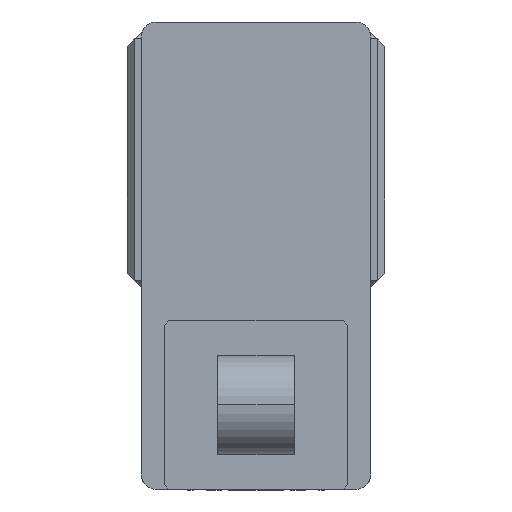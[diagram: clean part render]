
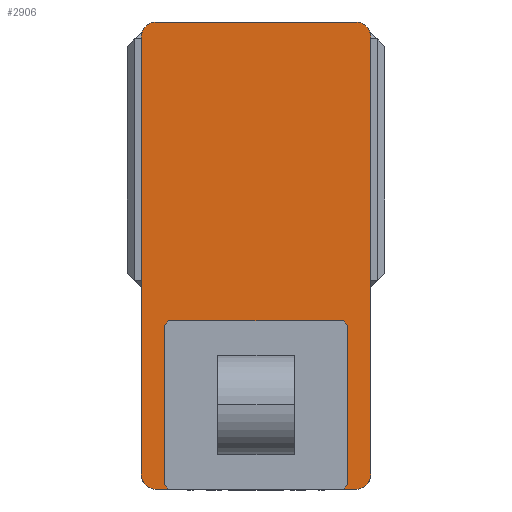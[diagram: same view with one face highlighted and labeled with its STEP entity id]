
A CAD part, left-side view. The second image highlights one B-rep face of the part: STEP entity #2906.
In plain terms, the highlighted planar face has unit normal (-1, 0, 0) as drawn and (0, 0, 1) by its records, which use the part's own axes.
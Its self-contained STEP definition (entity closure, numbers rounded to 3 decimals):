
#105 = DIRECTION ( 'NONE',  ( 1., 0., 0. ) ) ;
#231 = EDGE_CURVE ( 'NONE', #4683, #5187, #20035, .T. ) ;
#988 = ORIENTED_EDGE ( 'NONE', *, *, #1508, .T. ) ;
#1016 = AXIS2_PLACEMENT_3D ( 'NONE', #21525, #10880, #105 ) ;
#1384 = AXIS2_PLACEMENT_3D ( 'NONE', #20003, #9316, #21768 ) ;
#1508 = EDGE_CURVE ( 'NONE', #8217, #6273, #20270, .T. ) ;
#1693 = ORIENTED_EDGE ( 'NONE', *, *, #231, .T. ) ;
#2906 = ADVANCED_FACE ( 'NONE', ( #21542 ), #4420, .T. ) ;
#3140 = CIRCLE ( 'NONE', #19029, 10. ) ;
#4246 = VECTOR ( 'NONE', #7596, 1000. ) ;
#4420 = PLANE ( 'NONE',  #17857 ) ;
#4443 = VERTEX_POINT ( 'NONE', #22717 ) ;
#4476 = CARTESIAN_POINT ( 'NONE',  ( -75., -142.5, 105. ) ) ;
#4683 = VERTEX_POINT ( 'NONE', #8991 ) ;
#5187 = VERTEX_POINT ( 'NONE', #6788 ) ;
#5766 = VECTOR ( 'NONE', #11138, 1000. ) ;
#5987 = CARTESIAN_POINT ( 'NONE',  ( -65., 142.5, 105. ) ) ;
#6115 = ORIENTED_EDGE ( 'NONE', *, *, #18826, .T. ) ;
#6228 = DIRECTION ( 'NONE',  ( 0., 0., 1. ) ) ;
#6273 = VERTEX_POINT ( 'NONE', #21964 ) ;
#6332 = ORIENTED_EDGE ( 'NONE', *, *, #13163, .T. ) ;
#6408 = VERTEX_POINT ( 'NONE', #4476 ) ;
#6788 = CARTESIAN_POINT ( 'NONE',  ( 75., 142.5, 105. ) ) ;
#6977 = CARTESIAN_POINT ( 'NONE',  ( 65., 152.5, 105. ) ) ;
#7596 = DIRECTION ( 'NONE',  ( 0., -1., 0. ) ) ;
#7790 = DIRECTION ( 'NONE',  ( 1., 0., 0. ) ) ;
#7951 = DIRECTION ( 'NONE',  ( 0., 0., 1. ) ) ;
#8217 = VERTEX_POINT ( 'NONE', #6977 ) ;
#8991 = CARTESIAN_POINT ( 'NONE',  ( 75., -142.5, 105. ) ) ;
#9021 = LINE ( 'NONE', #16404, #4246 ) ;
#9182 = VERTEX_POINT ( 'NONE', #17793 ) ;
#9316 = DIRECTION ( 'NONE',  ( 0., 0., 1. ) ) ;
#9331 = ORIENTED_EDGE ( 'NONE', *, *, #21302, .T. ) ;
#10394 = DIRECTION ( 'NONE',  ( 0., 1., 0. ) ) ;
#10544 = VERTEX_POINT ( 'NONE', #20230 ) ;
#10545 = LINE ( 'NONE', #14622, #5766 ) ;
#10552 = VECTOR ( 'NONE', #10394, 1000. ) ;
#10653 = EDGE_CURVE ( 'NONE', #6408, #10544, #3140, .T. ) ;
#10880 = DIRECTION ( 'NONE',  ( 0., 0., 1. ) ) ;
#11138 = DIRECTION ( 'NONE',  ( 1., 0., 0. ) ) ;
#11384 = EDGE_LOOP ( 'NONE', ( #12489, #9331, #1693, #13717, #988, #6332, #6115, #20101 ) ) ;
#12489 = ORIENTED_EDGE ( 'NONE', *, *, #14861, .T. ) ;
#12615 = CIRCLE ( 'NONE', #19204, 10. ) ;
#12991 = CIRCLE ( 'NONE', #1384, 10. ) ;
#13163 = EDGE_CURVE ( 'NONE', #6273, #9182, #12615, .T. ) ;
#13194 = DIRECTION ( 'NONE',  ( -1., 0., 0. ) ) ;
#13717 = ORIENTED_EDGE ( 'NONE', *, *, #16861, .T. ) ;
#13972 = CIRCLE ( 'NONE', #1016, 10. ) ;
#14622 = CARTESIAN_POINT ( 'NONE',  ( -75., -152.5, 105. ) ) ;
#14861 = EDGE_CURVE ( 'NONE', #10544, #4443, #10545, .T. ) ;
#14947 = VECTOR ( 'NONE', #13194, 1000. ) ;
#16404 = CARTESIAN_POINT ( 'NONE',  ( -75., 152.5, 105. ) ) ;
#16861 = EDGE_CURVE ( 'NONE', #5187, #8217, #12991, .T. ) ;
#17793 = CARTESIAN_POINT ( 'NONE',  ( -75., 142.5, 105. ) ) ;
#17857 = AXIS2_PLACEMENT_3D ( 'NONE', #22207, #6228, #18728 ) ;
#18483 = DIRECTION ( 'NONE',  ( 0., 0., 1. ) ) ;
#18563 = CARTESIAN_POINT ( 'NONE',  ( -75., 152.5, 105. ) ) ;
#18656 = CARTESIAN_POINT ( 'NONE',  ( -65., -142.5, 105. ) ) ;
#18728 = DIRECTION ( 'NONE',  ( 1., 0., 0. ) ) ;
#18826 = EDGE_CURVE ( 'NONE', #9182, #6408, #9021, .T. ) ;
#19029 = AXIS2_PLACEMENT_3D ( 'NONE', #18656, #7951, #20452 ) ;
#19204 = AXIS2_PLACEMENT_3D ( 'NONE', #5987, #18483, #7790 ) ;
#20003 = CARTESIAN_POINT ( 'NONE',  ( 65., 142.5, 105. ) ) ;
#20035 = LINE ( 'NONE', #21397, #10552 ) ;
#20101 = ORIENTED_EDGE ( 'NONE', *, *, #10653, .T. ) ;
#20230 = CARTESIAN_POINT ( 'NONE',  ( -65., -152.5, 105. ) ) ;
#20270 = LINE ( 'NONE', #18563, #14947 ) ;
#20452 = DIRECTION ( 'NONE',  ( 1., 0., 0. ) ) ;
#21302 = EDGE_CURVE ( 'NONE', #4443, #4683, #13972, .T. ) ;
#21397 = CARTESIAN_POINT ( 'NONE',  ( 75., 152.5, 105. ) ) ;
#21525 = CARTESIAN_POINT ( 'NONE',  ( 65., -142.5, 105. ) ) ;
#21542 = FACE_OUTER_BOUND ( 'NONE', #11384, .T. ) ;
#21768 = DIRECTION ( 'NONE',  ( 1., 0., 0. ) ) ;
#21964 = CARTESIAN_POINT ( 'NONE',  ( -65., 152.5, 105. ) ) ;
#22207 = CARTESIAN_POINT ( 'NONE',  ( 0., 0., 105. ) ) ;
#22717 = CARTESIAN_POINT ( 'NONE',  ( 65., -152.5, 105. ) ) ;
